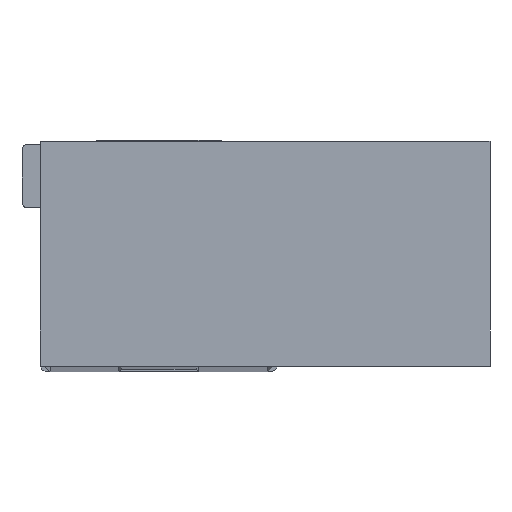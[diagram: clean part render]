
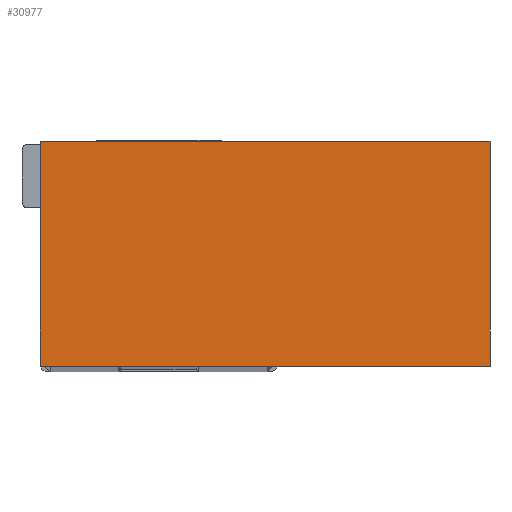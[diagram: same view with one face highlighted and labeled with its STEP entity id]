
A CAD part, top view. The second image highlights one B-rep face of the part: STEP entity #30977.
In plain terms, the highlighted planar face has unit normal (0, 0, 1) as drawn and (1, 0, 0) by its records, which use the part's own axes.
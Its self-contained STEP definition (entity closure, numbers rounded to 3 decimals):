
#273 = LINE ( 'NONE', #2973, #8954 ) ;
#2173 = EDGE_LOOP ( 'NONE', ( #34075, #17331, #31073, #37939 ) ) ;
#2275 = DIRECTION ( 'NONE',  ( -1., 0., 0. ) ) ;
#2598 = VERTEX_POINT ( 'NONE', #41494 ) ;
#2973 = CARTESIAN_POINT ( 'NONE',  ( 45., 0., 180. ) ) ;
#3277 = LINE ( 'NONE', #12477, #21551 ) ;
#8575 = DIRECTION ( 'NONE',  ( 0., 0., 1. ) ) ;
#8954 = VECTOR ( 'NONE', #41929, 1000. ) ;
#9743 = DIRECTION ( 'NONE',  ( 0., 1., 0. ) ) ;
#11558 = FACE_OUTER_BOUND ( 'NONE', #2173, .T. ) ;
#12477 = CARTESIAN_POINT ( 'NONE',  ( 45., 0., 180. ) ) ;
#13351 = CARTESIAN_POINT ( 'NONE',  ( 45., 90., 180. ) ) ;
#15507 = VERTEX_POINT ( 'NONE', #29987 ) ;
#16391 = CARTESIAN_POINT ( 'NONE',  ( 45., 0., 0. ) ) ;
#17219 = CARTESIAN_POINT ( 'NONE',  ( 45., 90., 180. ) ) ;
#17331 = ORIENTED_EDGE ( 'NONE', *, *, #19287, .F. ) ;
#17570 = CARTESIAN_POINT ( 'NONE',  ( 45., 0., 0. ) ) ;
#18085 = LINE ( 'NONE', #17219, #20107 ) ;
#19287 = EDGE_CURVE ( 'NONE', #28209, #15507, #18085, .T. ) ;
#20107 = VECTOR ( 'NONE', #36611, 1000. ) ;
#21113 = AXIS2_PLACEMENT_3D ( 'NONE', #27952, #2275, #8575 ) ;
#21551 = VECTOR ( 'NONE', #22826, 1000. ) ;
#22826 = DIRECTION ( 'NONE',  ( 0., 0., -1. ) ) ;
#27952 = CARTESIAN_POINT ( 'NONE',  ( 45., 0., 180. ) ) ;
#28209 = VERTEX_POINT ( 'NONE', #13351 ) ;
#29856 = VERTEX_POINT ( 'NONE', #17570 ) ;
#29987 = CARTESIAN_POINT ( 'NONE',  ( 45., 90., 0. ) ) ;
#30977 = ADVANCED_FACE ( 'NONE', ( #11558 ), #37596, .F. ) ;
#31073 = ORIENTED_EDGE ( 'NONE', *, *, #38547, .F. ) ;
#32640 = LINE ( 'NONE', #16391, #37188 ) ;
#32713 = EDGE_CURVE ( 'NONE', #2598, #29856, #3277, .T. ) ;
#33341 = EDGE_CURVE ( 'NONE', #29856, #15507, #32640, .T. ) ;
#34075 = ORIENTED_EDGE ( 'NONE', *, *, #33341, .T. ) ;
#36611 = DIRECTION ( 'NONE',  ( 0., 0., -1. ) ) ;
#37188 = VECTOR ( 'NONE', #9743, 1000. ) ;
#37596 = PLANE ( 'NONE',  #21113 ) ;
#37939 = ORIENTED_EDGE ( 'NONE', *, *, #32713, .T. ) ;
#38547 = EDGE_CURVE ( 'NONE', #2598, #28209, #273, .T. ) ;
#41494 = CARTESIAN_POINT ( 'NONE',  ( 45., 0., 180. ) ) ;
#41929 = DIRECTION ( 'NONE',  ( 0., 1., 0. ) ) ;
